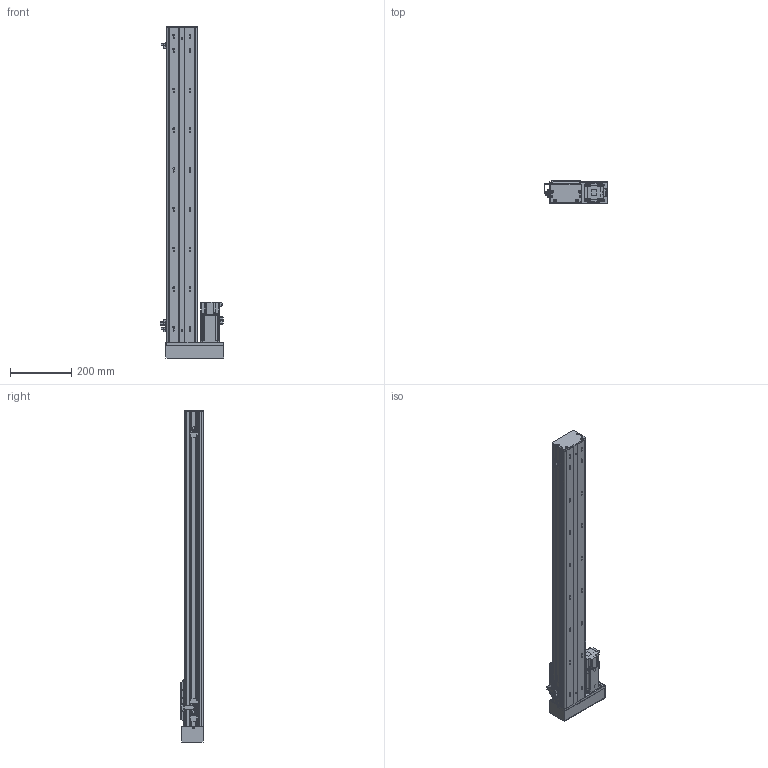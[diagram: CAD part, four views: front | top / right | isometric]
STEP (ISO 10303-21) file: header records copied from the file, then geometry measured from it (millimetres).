
FILE_DESCRIPTION (( 'STEP AP203' ), '1' );
FILE_NAME ('BOSW100-850-1610-1P-LM-M400W-O-S3（方程式2016）.step', '2020-10-10T06:59:49', ( '' ), ( '' ), 'SwSTEP 2.0', 'SolidWorks 2016', '' );
FILE_SCHEMA (( 'CONFIG_CONTROL_DESIGN' ));
Length unit declared in the file: millimetre
Products named in the file (14): 俋境嫖覜嘐隅啣; AIMS(W)-100-LM&RM-肮祭謫欶; BOSW-100-綴裔啣; S400W(SMA-L040); BOSW&TW-100-1P-賑雄釱欶; BOSW&TW-100-詩湍揤沭(陔賦凳); BOSW100-850-1610-1P-LM-M400W-O-S3（方程式2016）; BOSW&TW-100-俋离覜茼え; BOSW-100-1P-DM-宽轨-钢带-850客户图纸; boS-100-LM&RM-三菱M400W马达板-宽轨; 放大器内置U型微型光电传感器PM-L65; 新结构AIMSW-100-1P-宽&高轨共用-滑动座上组件; BOSW-100-1P-DM-宽轨-侧板-850客户图纸; BOSW-100-1P-DM-850諦誧芞
Assembly tree (19 placements, depth 2):
  BOSW100-850-1610-1P-LM-M400W-O-S3（方程式2016）
    BOSW-100-1P-DM-850諦誧芞
    BOSW-100-綴裔啣
    新结构AIMSW-100-1P-宽&高轨共用-滑动座上组件
    S400W(SMA-L040)
    BOSW&TW-100-詩湍揤沭(陔賦凳)  x2
    BOSW&TW-100-1P-賑雄釱欶
    BOSW&TW-100-俋离覜茼え
    俋境嫖覜嘐隅啣  x3
    放大器内置U型微型光电传感器PM-L65  x3
    BOSW-100-1P-DM-宽轨-侧板-850客户图纸  x2
    BOSW-100-1P-DM-宽轨-钢带-850客户图纸
    AIMS(W)-100-LM&RM-肮祭謫欶
    boS-100-LM&RM-三菱M400W马达板-宽轨
Bounding box: 207.9 x 75 x 1086 mm (x, y, z)
Volume: 2384700 mm3; surface area: 1111859.4 mm2
Topology: 19 solids, 20 shells, 2563 faces, 6777 edges, 4327 vertices
Faces by surface type: plane 1247, cylinder 830, bspline 271, cone 167, torus 36, sphere 12
Entity records: 70672 total; most frequent: CARTESIAN_POINT 21082, ORIENTED_EDGE 10094, DIRECTION 9795, EDGE_CURVE 5047, AXIS2_PLACEMENT_3D 3487, VERTEX_POINT 3229, VECTOR 2821, LINE 2821
